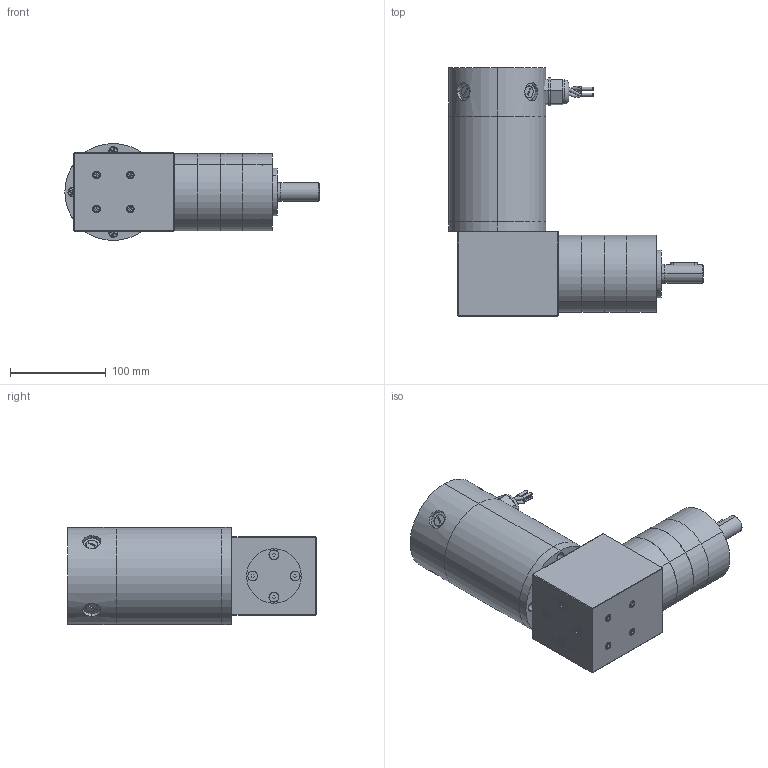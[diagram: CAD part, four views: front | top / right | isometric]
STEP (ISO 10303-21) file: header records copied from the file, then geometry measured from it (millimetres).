
FILE_DESCRIPTION (( 'STEP AP203' ), '1' );
FILE_NAME ('d40675agra3.step', '2018-12-07T19:48:25', ( '' ), ( '' ), 'SwSTEP 2.0', 'SolidWorks 2017', '' );
FILE_SCHEMA (( 'CONFIG_CONTROL_DESIGN' ));
Length unit declared in the file: inch
Products named in the file (1): d40675agra3
Bounding box: 266.15 x 260.35 x 101.6 mm (x, y, z)
Volume: 2714421.5 mm3; surface area: 272056.4 mm2
Topology: 29 solids, 29 shells, 1263 faces, 3155 edges, 1995 vertices
Faces by surface type: cylinder 725, plane 360, cone 113, torus 41, bspline 16, sphere 8
Entity records: 57475 total; most frequent: CARTESIAN_POINT 29920, ORIENTED_EDGE 6246, DIRECTION 5338, EDGE_CURVE 3123, AXIS2_PLACEMENT_3D 2013, VERTEX_POINT 1995, EDGE_LOOP 1376, LINE 1312
